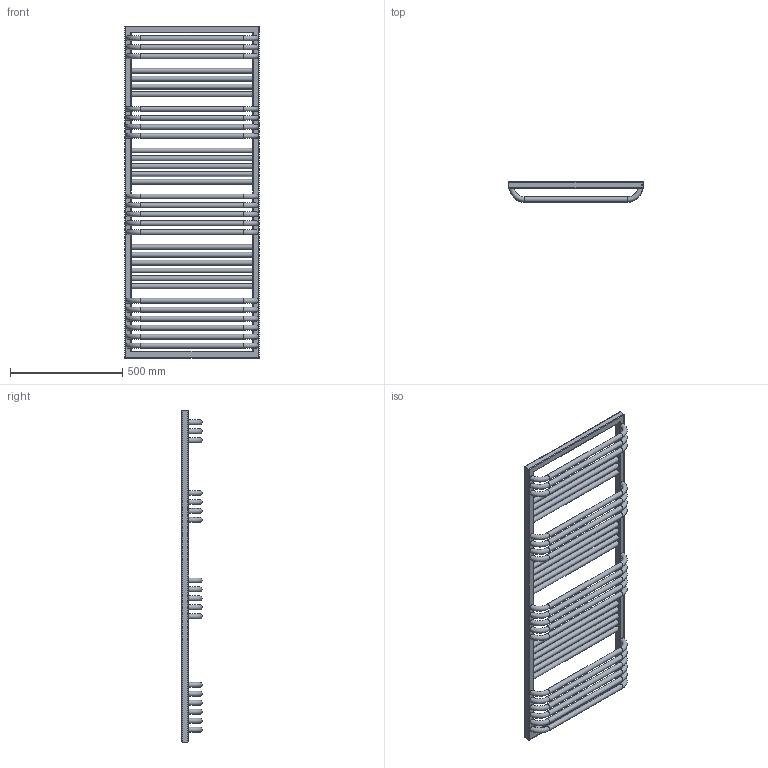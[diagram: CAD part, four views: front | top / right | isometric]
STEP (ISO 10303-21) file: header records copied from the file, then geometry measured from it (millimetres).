
FILE_DESCRIPTION((''),'2;1');
FILE_NAME('Z:\R\G\P\RGPH18 - Grzejnik POC\Work\Inventor\POC 1-6-8 v2.0\Marketing\AutoCad 3D\POC-1480-600-1-6-8.stp','2012-07-12T14:39:16',('KurKa'),(''),'Autodesk Inventor 2012','Autodesk Inventor 2012','');
FILE_SCHEMA(('AUTOMOTIVE_DESIGN { 1 0 10303 214 1 1 1 1 }'));
Length unit declared in the file: millimetre
Products named in the file (1): POC-1480-600-1-6-8
Bounding box: 600 x 90 x 1480 mm (x, y, z)
Volume: 10930131.9 mm3; surface area: 1773431.3 mm2
Topology: 1 solids, 1 shells, 104 faces, 278 edges, 179 vertices
Faces by surface type: cylinder 52, torus 39, plane 13
Full cylindrical faces by diameter (mm): 18.631 x3, 22 x33
Entity records: 4972 total; most frequent: CARTESIAN_POINT 2755, DIRECTION 432, ORIENTED_EDGE 334, EDGE_LOOP 250, AXIS2_PLACEMENT_3D 196, EDGE_CURVE 167, FACE_BOUND 146, VERTEX_POINT 143
